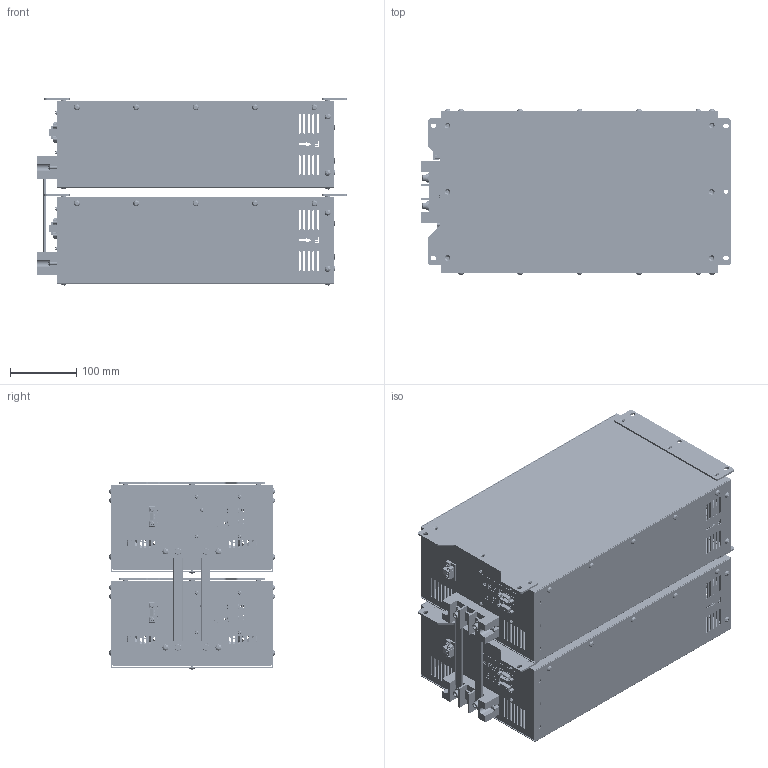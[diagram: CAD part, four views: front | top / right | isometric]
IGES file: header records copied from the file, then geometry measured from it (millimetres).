
Global section: file name: BUS-VX3-2P-11-L160; native system: Autodesk Inventor 2021; preprocessor: unknown; author: eunsol jang; date: 20240312.153743; units: inch
Bounding box: 468 x 250.09 x 282.64 mm (x, y, z)
Volume: 1424503.5 mm3; surface area: 1810127.4 mm2
Topology: 13 solids, 13 shells, 8582 faces, 25692 edges, 17840 vertices
Faces by surface type: bspline 8582
